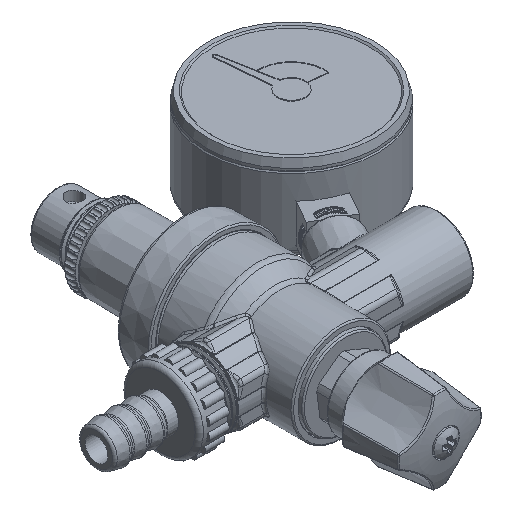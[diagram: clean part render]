
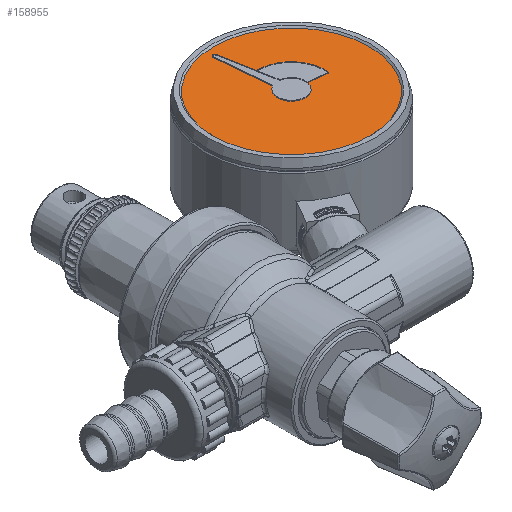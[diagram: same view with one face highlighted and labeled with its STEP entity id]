
A CAD part, isometric view. The second image highlights one B-rep face of the part: STEP entity #158955.
In plain terms, the highlighted planar face has unit normal (0, 0, 1) as drawn and (0, -1, 0) by its records, which use the part's own axes.
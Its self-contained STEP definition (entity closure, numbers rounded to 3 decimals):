
#44208=PLANE('',#155390);
#46166=CIRCLE('',#155389,28.);
#55152=ORIENTED_EDGE('',*,*,#71547,.T.);
#66646=VERTEX_POINT('',#148453);
#71547=EDGE_CURVE('',#66646,#66646,#46166,.T.);
#75298=EDGE_LOOP('',(#55152));
#77788=FACE_BOUND('',#75298,.T.);
#83538=DIRECTION('',(0.,-1.,0.));
#83539=DIRECTION('',(0.,0.,-28.));
#83540=DIRECTION('',(0.,-1.,0.));
#83541=DIRECTION('',(-1.,0.,0.));
#148453=CARTESIAN_POINT('',(0.,0.,-28.));
#148454=CARTESIAN_POINT('',(0.,0.,0.));
#148455=CARTESIAN_POINT('',(28.,0.,0.));
#155389=AXIS2_PLACEMENT_3D('',#148454,#83538,#83539);
#155390=AXIS2_PLACEMENT_3D('',#148455,#83540,#83541);
#158955=ADVANCED_FACE('',(#77788),#44208,.T.);
